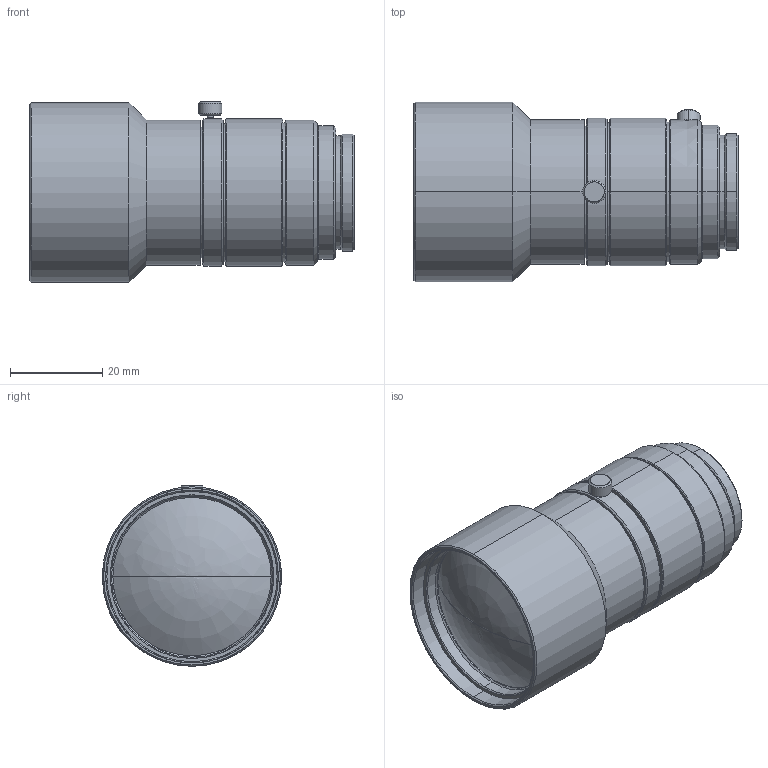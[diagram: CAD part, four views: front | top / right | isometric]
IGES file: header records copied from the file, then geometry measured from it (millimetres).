
Start section: SolidWorks IGES file using analytic representation for surfaces
Global section: file name: \\192.168.1.203\Tsuji\作業中\10028H.IGS,15; native system: HSolidWorks 2012; preprocessor: SolidWorks 2012; author: I-3Dcad; date: 120907.100529; units: millimetre
Bounding box: 70.5 x 39 x 39.25 mm (x, y, z)
Surface area: 11664.2 mm2 (no closed solid volume)
Topology: 0 solids, 0 shells, 138 faces, 2347 edges, 2345 vertices
Faces by surface type: revolution 118, bspline 20
